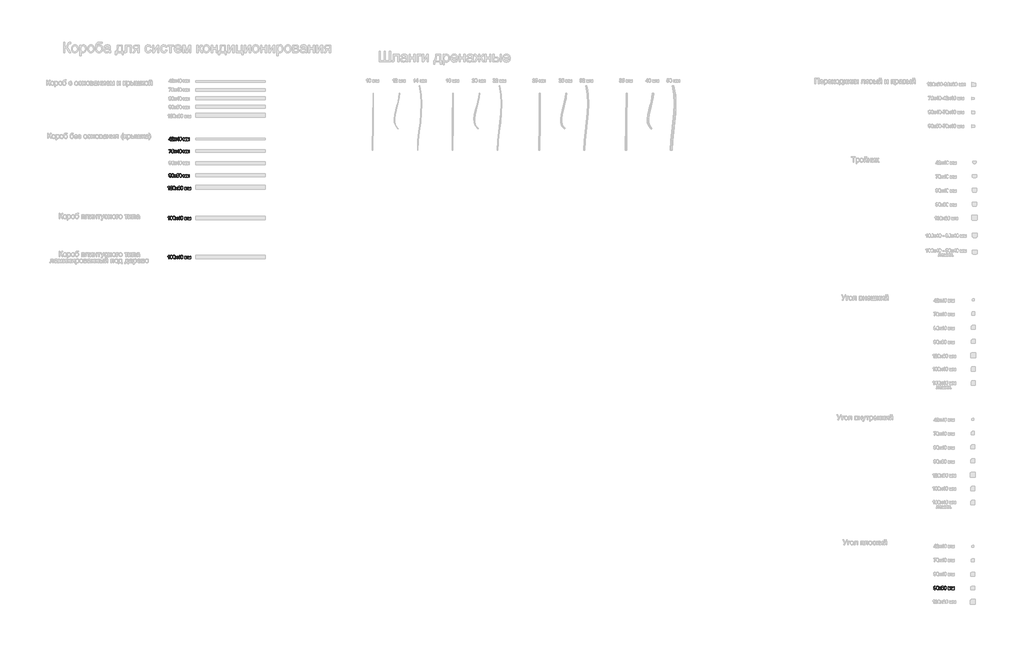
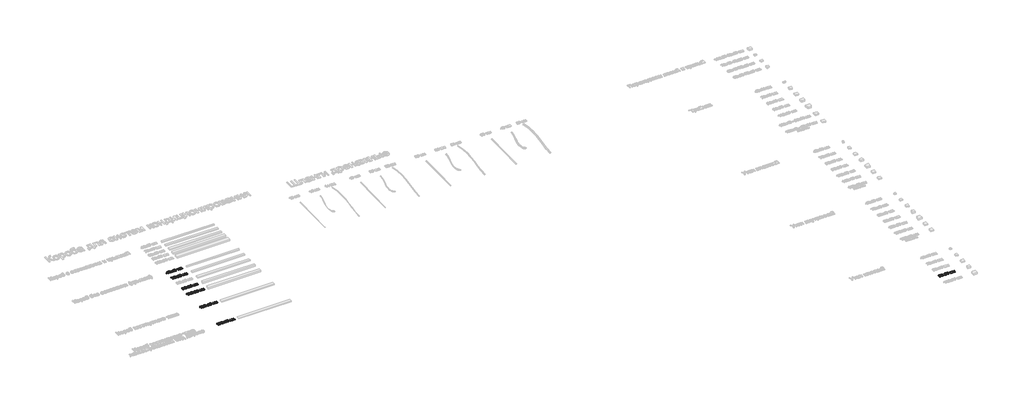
# One storey, part 7 of 21: 7 proxies.
"""IFC4 building model written with IfcOpenShell, lengths in millimetres."""

from ifc_helpers import new_model, si_unit, origin, origin_with_axes, place, context, project, spatial, polyline, outline, extrude, element, save

model = new_model("IFC4")

# Units and contexts
model_context = context("Model", 3, world=origin())
ifc_project = project(units=[si_unit("LENGTHUNIT", "METRE", prefix="MILLI")], contexts=[model_context])

# Site, building, storey
site = spatial("IfcSite", under=ifc_project)
building = spatial("IfcBuilding", under=site)
storey = spatial("IfcBuildingStorey", under=building, Name="Этаж 01", Elevation=0.0)

# Proxies
placement = place(None, origin())
element("IfcBuildingElementProxy", 1, Name="100 мм Arial", ObjectType="100 мм Arial", at=placement, inside=storey, context=model_context, shape_type="SweptSolid", body=[
    extrude(outline(polyline([(764.6146519, -4107.7285434), (764.6146519, -4084.1840957), (719.0953863, -4084.1840957), (719.0953863, -4071.627057), (767.7539116, -4008.8418631), (777.1716906, -4008.8418631), (777.1716906, -4071.627057), (789.7287294, -4071.627057), (789.7287294, -4084.1840957), (777.1716906, -4084.1840957), (777.1716906, -4107.7285434), (764.6146519, -4107.7285434)]), holes=[polyline([(764.6146519, -4071.627057), (764.6146519, -4032.8277692), (734.5464301, -4071.627057), (764.6146519, -4071.627057)])]), origin_with_axes(), (0.0, 0.0, 1.0), 20.0),
    extrude(outline(polyline([(865.070962, -4095.1715047), (865.070962, -4107.7285434), (799.1465085, -4107.7285434), (800.4954091, -4099.0710538), (808.1228292, -4085.7414629), (823.8436531, -4071.1855986), (845.5241653, -4050.2653758), (850.9442934, -4036.0406053), (845.8307337, -4024.5258989), (832.4766173, -4019.8292721), (818.5584151, -4024.4155343), (813.2731771, -4037.0952004), (800.7161383, -4035.5255705), (803.7603618, -4023.3793333), (810.3423839, -4014.5072459), (820.1188479, -4009.0809864), (832.7463974, -4007.2722333), (845.4659174, -4009.2833215), (855.2239873, -4015.3165863), (861.431996, -4024.3296951), (863.5013322, -4035.2803159), (861.2695147, -4047.1874298), (853.8505612, -4059.4992139), (835.8611316, -4076.7038285), (821.4156319, -4088.7826207), (815.7502492, -4095.1715047), (865.070962, -4095.1715047)])), origin_with_axes(), (0.0, 0.0, 1.0), 20.0),
    extrude(outline(polyline([(872.9191113, -4107.7285434), (899.7499714, -4070.6460383), (874.4887411, -4033.9559407), (889.5964284, -4033.9559407), (901.7855851, -4051.6142764), (907.4754933, -4059.952935), (912.4051121, -4053.1348554), (926.286526, -4033.9559407), (941.3942133, -4033.9559407), (914.8576587, -4070.6460383), (940.4131946, -4107.7285434), (925.3055074, -4107.7285434), (909.92804, -4085.4348945), (907.1076113, -4081.3636671), (888.0267985, -4107.7285434), (872.9191113, -4107.7285434)])), origin_with_axes(), (0.0, 0.0, 1.0), 20.0),
    extrude(outline(polyline([(989.0717199, -4107.7285434), (989.0717199, -4084.1840957), (943.5524543, -4084.1840957), (943.5524543, -4071.627057), (992.2109796, -4008.8418631), (1001.6287586, -4008.8418631), (1001.6287586, -4071.627057), (1014.1857974, -4071.627057), (1014.1857974, -4084.1840957), (1001.6287586, -4084.1840957), (1001.6287586, -4107.7285434), (989.0717199, -4107.7285434)]), holes=[polyline([(989.0717199, -4071.627057), (989.0717199, -4032.8277692), (959.0034981, -4071.627057), (989.0717199, -4071.627057)])]), origin_with_axes(), (0.0, 0.0, 1.0), 20.0),
    extrude(outline(polyline([(1025.1732063, -4058.3097288), (1028.864289, -4029.4064667), (1039.8271725, -4012.7414123), (1058.1354331, -4007.2722333), (1072.801662, -4010.5095948), (1082.9306796, -4019.8415348), (1088.8167915, -4034.7039674), (1091.0976599, -4058.3097288), (1087.4433654, -4087.0903635), (1076.5172701, -4103.7922061), (1068.2859105, -4107.9216815), (1058.1354331, -4109.2981733), (1045.087885, -4106.9069403), (1035.1795966, -4099.7332414), (1027.6748039, -4082.7432246), (1025.1732063, -4058.3097288)]), holes=[polyline([(1037.7302451, -4058.2852033), (1039.2017731, -4078.0374007), (1043.616357, -4089.4693337), (1050.189182, -4094.9231843), (1058.1354331, -4096.7411345), (1066.0816842, -4094.917053), (1072.6545092, -4089.4448083), (1077.0690931, -4078.0067439), (1078.5406211, -4058.2852033), (1077.118144, -4038.9775299), (1072.8507129, -4027.4566921), (1066.2901507, -4021.7361271), (1057.9882803, -4019.8292721), (1050.1278683, -4021.5092665), (1043.8125607, -4026.5492498), (1039.250824, -4038.7874575), (1037.7302451, -4058.2852033)])]), origin_with_axes(), (0.0, 0.0, 1.0), 20.0),
    extrude(outline(polyline([(1144.4650746, -4033.9559407), (1166.0720105, -4033.9559407), (1182.7248021, -4093.0132636), (1200.6774435, -4033.9559407), (1221.3769371, -4033.9559407), (1221.3769371, -4107.7285434), (1208.8198983, -4107.7285434), (1208.8198983, -4048.327864), (1190.7691551, -4107.7285434), (1174.2880417, -4107.7285434), (1157.0221134, -4045.4829099), (1157.0221134, -4107.7285434), (1144.4650746, -4107.7285434), (1144.4650746, -4033.9559407)])), origin_with_axes(), (0.0, 0.0, 1.0), 20.0),
    extrude(outline(polyline([(1240.2124952, -4033.9559407), (1261.8194311, -4033.9559407), (1278.4722227, -4093.0132636), (1296.4248641, -4033.9559407), (1317.1243577, -4033.9559407), (1317.1243577, -4107.7285434), (1304.5673189, -4107.7285434), (1304.5673189, -4048.327864), (1286.5165757, -4107.7285434), (1270.0354623, -4107.7285434), (1252.769534, -4045.4829099), (1252.769534, -4107.7285434), (1240.2124952, -4107.7285434), (1240.2124952, -4033.9559407)])), origin_with_axes(), (0.0, 0.0, 1.0), 20.0),
])
element("IfcBuildingElementProxy", 2, Name="100 мм Arial", ObjectType="100 мм Arial", at=placement, inside=storey, context=model_context, shape_type="SweptSolid", body=[
    extrude(outline(polyline([(723.8042759, -4378.808939), (723.8042759, -4366.2519003), (789.7287294, -4366.2519003), (789.7287294, -4376.4054433), (771.0280613, -4403.4202445), (756.7174517, -4437.8417365), (752.0576131, -4465.1385806), (739.5005743, -4465.1385806), (744.4915067, -4436.8116669), (758.1889797, -4404.7936706), (777.1716906, -4378.808939), (723.8042759, -4378.808939)])), origin_with_axes(), (0.0, 0.0, 1.0), 20.0),
    extrude(outline(polyline([(800.7161383, -4415.7197659), (804.407221, -4386.8165038), (815.3701045, -4370.1514494), (833.6783651, -4364.6822704), (848.344594, -4367.919632), (858.4736116, -4377.2515719), (864.3597235, -4392.1140045), (866.6405919, -4415.7197659), (862.9862974, -4444.5004006), (852.0602021, -4461.2022432), (843.8288425, -4465.3317186), (833.6783651, -4466.7082104), (820.630817, -4464.3169774), (810.7225286, -4457.1432785), (803.2177359, -4440.1532617), (800.7161383, -4415.7197659)]), holes=[polyline([(813.2731771, -4415.6952404), (814.7447051, -4435.4474379), (819.159289, -4446.8793709), (825.732114, -4452.3332214), (833.6783651, -4454.1511716), (841.6246162, -4452.3270901), (848.1974412, -4446.8548454), (852.6120251, -4435.416781), (854.0835531, -4415.6952404), (852.6610761, -4396.387567), (848.3936449, -4384.8667292), (841.8330827, -4379.1461642), (833.5312123, -4377.2393092), (825.6708003, -4378.9193036), (819.3554928, -4383.959287), (814.793756, -4396.1974947), (813.2731771, -4415.6952404)])]), origin_with_axes(), (0.0, 0.0, 1.0), 20.0),
    extrude(outline(polyline([(872.9191113, -4465.1385806), (899.7499714, -4428.0560754), (874.4887411, -4391.3659778), (889.5964284, -4391.3659778), (901.7855851, -4409.0243136), (907.4754933, -4417.3629721), (912.4051121, -4410.5448925), (926.286526, -4391.3659778), (941.3942133, -4391.3659778), (914.8576587, -4428.0560754), (940.4131946, -4465.1385806), (925.3055074, -4465.1385806), (909.92804, -4442.8449316), (907.1076113, -4438.7737042), (888.0267985, -4465.1385806), (872.9191113, -4465.1385806)])), origin_with_axes(), (0.0, 0.0, 1.0), 20.0),
    extrude(outline(polyline([(989.0717199, -4465.1385806), (989.0717199, -4441.5941329), (943.5524543, -4441.5941329), (943.5524543, -4429.0370941), (992.2109796, -4366.2519003), (1001.6287586, -4366.2519003), (1001.6287586, -4429.0370941), (1014.1857974, -4429.0370941), (1014.1857974, -4441.5941329), (1001.6287586, -4441.5941329), (1001.6287586, -4465.1385806), (989.0717199, -4465.1385806)]), holes=[polyline([(989.0717199, -4429.0370941), (989.0717199, -4390.2378063), (959.0034981, -4429.0370941), (989.0717199, -4429.0370941)])]), origin_with_axes(), (0.0, 0.0, 1.0), 20.0),
    extrude(outline(polyline([(1025.1732063, -4415.7197659), (1028.864289, -4386.8165038), (1039.8271725, -4370.1514494), (1058.1354331, -4364.6822704), (1072.801662, -4367.919632), (1082.9306796, -4377.2515719), (1088.8167915, -4392.1140045), (1091.0976599, -4415.7197659), (1087.4433654, -4444.5004006), (1076.5172701, -4461.2022432), (1068.2859105, -4465.3317186), (1058.1354331, -4466.7082104), (1045.087885, -4464.3169774), (1035.1795966, -4457.1432785), (1027.6748039, -4440.1532617), (1025.1732063, -4415.7197659)]), holes=[polyline([(1037.7302451, -4415.6952404), (1039.2017731, -4435.4474379), (1043.616357, -4446.8793709), (1050.189182, -4452.3332214), (1058.1354331, -4454.1511716), (1066.0816842, -4452.3270901), (1072.6545092, -4446.8548454), (1077.0690931, -4435.416781), (1078.5406211, -4415.6952404), (1077.118144, -4396.387567), (1072.8507129, -4384.8667292), (1066.2901507, -4379.1461642), (1057.9882803, -4377.2393092), (1050.1278683, -4378.9193036), (1043.8125607, -4383.959287), (1039.250824, -4396.1974947), (1037.7302451, -4415.6952404)])]), origin_with_axes(), (0.0, 0.0, 1.0), 20.0),
    extrude(outline(polyline([(1144.4650746, -4391.3659778), (1166.0720105, -4391.3659778), (1182.7248021, -4450.4233007), (1200.6774435, -4391.3659778), (1221.3769371, -4391.3659778), (1221.3769371, -4465.1385806), (1208.8198983, -4465.1385806), (1208.8198983, -4405.7379011), (1190.7691551, -4465.1385806), (1174.2880417, -4465.1385806), (1157.0221134, -4402.892947), (1157.0221134, -4465.1385806), (1144.4650746, -4465.1385806), (1144.4650746, -4391.3659778)])), origin_with_axes(), (0.0, 0.0, 1.0), 20.0),
    extrude(outline(polyline([(1240.2124952, -4391.3659778), (1261.8194311, -4391.3659778), (1278.4722227, -4450.4233007), (1296.4248641, -4391.3659778), (1317.1243577, -4391.3659778), (1317.1243577, -4465.1385806), (1304.5673189, -4465.1385806), (1304.5673189, -4405.7379011), (1286.5165757, -4465.1385806), (1270.0354623, -4465.1385806), (1252.769534, -4402.892947), (1252.769534, -4465.1385806), (1240.2124952, -4465.1385806), (1240.2124952, -4391.3659778)])), origin_with_axes(), (0.0, 0.0, 1.0), 20.0),
])
element("IfcBuildingElementProxy", 3, Name="100 мм Arial", ObjectType="100 мм Arial", at=placement, inside=storey, context=model_context, shape_type="SweptSolid", body=[
    extrude(outline(polyline([(725.3739057, -5136.8445773), (737.9309445, -5135.2749474), (743.5718018, -5147.2556377), (754.2649051, -5150.9712459), (764.4307109, -5148.5800129), (771.3223669, -5142.1911289), (775.4303825, -5131.2772964), (777.245267, -5116.7091694), (777.1716906, -5114.2566228), (767.1285122, -5123.7725037), (753.3574628, -5127.4267982), (741.9071357, -5125.1949807), (732.3759264, -5118.4995284), (725.9471885, -5108.155913), (723.8042759, -5094.9796062), (726.0514217, -5081.3679724), (732.7928593, -5070.6993945), (742.9188112, -5063.8016071), (755.3195001, -5061.5023446), (773.2108278, -5066.7507944), (785.5226119, -5081.7113289), (789.7287294, -5109.8175133), (785.5348747, -5140.3149307), (780.3201474, -5150.3059926), (773.063675, -5157.5931218), (764.0781573, -5162.0444939), (753.6762939, -5163.5282846), (742.940271, -5161.7777795), (734.3747519, -5156.526264), (728.3844067, -5148.104832), (725.3739057, -5136.8445773)]), holes=[polyline([(777.1716906, -5094.6853006), (775.8166586, -5086.1749638), (771.7515626, -5079.6266643), (765.4423864, -5075.4512036), (757.3551138, -5074.0593834), (748.9674043, -5075.5585025), (742.2474266, -5080.0558599), (737.8328426, -5086.9383189), (736.3613146, -5095.5927429), (737.7531349, -5103.3519873), (741.9285955, -5109.510945), (748.4830264, -5113.5300558), (757.0117573, -5114.8697594), (771.4940452, -5109.510945), (775.7522793, -5103.1251267), (777.1716906, -5094.6853006)])]), origin_with_axes(), (0.0, 0.0, 1.0), 20.0),
    extrude(outline(polyline([(800.7161383, -5112.5398401), (804.407221, -5083.636578), (815.3701045, -5066.9715236), (833.6783651, -5061.5023446), (848.344594, -5064.7397062), (858.4736116, -5074.0716461), (864.3597235, -5088.9340787), (866.6405919, -5112.5398401), (862.9862974, -5141.3204749), (852.0602021, -5158.0223174), (843.8288425, -5162.1517928), (833.6783651, -5163.5282846), (820.630817, -5161.1370517), (810.7225286, -5153.9633528), (803.2177359, -5136.973336), (800.7161383, -5112.5398401)]), holes=[polyline([(813.2731771, -5112.5153146), (814.7447051, -5132.2675121), (819.159289, -5143.6994451), (825.732114, -5149.1532957), (833.6783651, -5150.9712459), (841.6246162, -5149.1471643), (848.1974412, -5143.6749196), (852.6120251, -5132.2368553), (854.0835531, -5112.5153146), (852.6610761, -5093.2076413), (848.3936449, -5081.6868034), (841.8330827, -5075.9662384), (833.5312123, -5074.0593834), (825.6708003, -5075.7393779), (819.3554928, -5080.7793612), (814.793756, -5093.0175689), (813.2731771, -5112.5153146)])]), origin_with_axes(), (0.0, 0.0, 1.0), 20.0),
    extrude(outline(polyline([(872.9191113, -5161.9586548), (899.7499714, -5124.8761497), (874.4887411, -5088.186052), (889.5964284, -5088.186052), (901.7855851, -5105.8443878), (907.4754933, -5114.1830464), (912.4051121, -5107.3649667), (926.286526, -5088.186052), (941.3942133, -5088.186052), (914.8576587, -5124.8761497), (940.4131946, -5161.9586548), (925.3055074, -5161.9586548), (909.92804, -5139.6650059), (907.1076113, -5135.5937785), (888.0267985, -5161.9586548), (872.9191113, -5161.9586548)])), origin_with_axes(), (0.0, 0.0, 1.0), 20.0),
    extrude(outline(polyline([(1012.6161676, -5088.186052), (1000.0591288, -5089.7556819), (995.3011883, -5079.2833077), (982.7196241, -5074.0593834), (971.3888586, -5077.1005412), (962.8172081, -5088.5171458), (959.2487528, -5110.8966339), (970.3220008, -5100.8779809), (984.0439993, -5097.6038311), (995.6445448, -5099.8417799), (1005.381155, -5106.5556263), (1011.9846368, -5116.8134026), (1014.1857974, -5129.6831411), (1010.0409936, -5147.0103831), (998.6366517, -5159.2731162), (982.1800638, -5163.5282846), (967.9338336, -5160.707856), (956.5877397, -5152.2465701), (949.1657204, -5137.3105611), (946.691714, -5115.0659631), (949.4385663, -5090.0561188), (957.6791229, -5072.9557374), (968.9301806, -5064.3656928), (983.504439, -5061.5023446), (994.5225048, -5063.2743096), (1003.3455413, -5068.5902044), (1009.5259588, -5077.0330962), (1012.6161676, -5088.186052)]), holes=[polyline([(959.2487528, -5129.4869374), (962.1550206, -5140.3639817), (969.8805424, -5148.2611818), (981.1990452, -5150.9712459), (989.4855871, -5149.5671629), (996.0001641, -5145.3549141), (1000.22161, -5138.7330382), (1001.6287586, -5130.100074), (1000.2400041, -5121.8135321), (996.0737405, -5115.4951588), (989.4487989, -5111.4944421), (980.6840104, -5110.1608699), (965.490484, -5115.4951588), (960.8091856, -5121.6602479), (959.2487528, -5129.4869374)])]), origin_with_axes(), (0.0, 0.0, 1.0), 20.0),
    extrude(outline(polyline([(1025.1732063, -5112.5398401), (1028.864289, -5083.636578), (1039.8271725, -5066.9715236), (1058.1354331, -5061.5023446), (1072.801662, -5064.7397062), (1082.9306796, -5074.0716461), (1088.8167915, -5088.9340787), (1091.0976599, -5112.5398401), (1087.4433654, -5141.3204749), (1076.5172701, -5158.0223174), (1068.2859105, -5162.1517928), (1058.1354331, -5163.5282846), (1045.087885, -5161.1370517), (1035.1795966, -5153.9633528), (1027.6748039, -5136.973336), (1025.1732063, -5112.5398401)]), holes=[polyline([(1037.7302451, -5112.5153146), (1039.2017731, -5132.2675121), (1043.616357, -5143.6994451), (1050.189182, -5149.1532957), (1058.1354331, -5150.9712459), (1066.0816842, -5149.1471643), (1072.6545092, -5143.6749196), (1077.0690931, -5132.2368553), (1078.5406211, -5112.5153146), (1077.118144, -5093.2076413), (1072.8507129, -5081.6868034), (1066.2901507, -5075.9662384), (1057.9882803, -5074.0593834), (1050.1278683, -5075.7393779), (1043.8125607, -5080.7793612), (1039.250824, -5093.0175689), (1037.7302451, -5112.5153146)])]), origin_with_axes(), (0.0, 0.0, 1.0), 20.0),
    extrude(outline(polyline([(1144.4650746, -5088.186052), (1166.0720105, -5088.186052), (1182.7248021, -5147.243375), (1200.6774435, -5088.186052), (1221.3769371, -5088.186052), (1221.3769371, -5161.9586548), (1208.8198983, -5161.9586548), (1208.8198983, -5102.5579753), (1190.7691551, -5161.9586548), (1174.2880417, -5161.9586548), (1157.0221134, -5099.7130212), (1157.0221134, -5161.9586548), (1144.4650746, -5161.9586548), (1144.4650746, -5088.186052)])), origin_with_axes(), (0.0, 0.0, 1.0), 20.0),
    extrude(outline(polyline([(1240.2124952, -5088.186052), (1261.8194311, -5088.186052), (1278.4722227, -5147.243375), (1296.4248641, -5088.186052), (1317.1243577, -5088.186052), (1317.1243577, -5161.9586548), (1304.5673189, -5161.9586548), (1304.5673189, -5102.5579753), (1286.5165757, -5161.9586548), (1270.0354623, -5161.9586548), (1252.769534, -5099.7130212), (1252.769534, -5161.9586548), (1240.2124952, -5161.9586548), (1240.2124952, -5088.186052)])), origin_with_axes(), (0.0, 0.0, 1.0), 20.0),
])
element("IfcBuildingElementProxy", 4, Name="100 мм Arial", ObjectType="100 мм Arial", at=placement, inside=storey, context=model_context, shape_type="SweptSolid", body=[
    extrude(outline(polyline([(732.43724, -5520.3686919), (719.8802013, -5520.3686919), (719.8802013, -5442.0834033), (707.9853501, -5450.556952), (694.7661237, -5456.896785), (694.7661237, -5445.0264593), (713.1724862, -5433.2787609), (724.3438361, -5419.9123818), (732.43724, -5419.9123818), (732.43724, -5520.3686919)])), origin_with_axes(), (0.0, 0.0, 1.0), 20.0),
    extrude(outline(polyline([(826.6150308, -5507.8116531), (826.6150308, -5520.3686919), (760.6905773, -5520.3686919), (762.0394779, -5511.7112023), (769.6668979, -5498.3816113), (785.3877219, -5483.8257471), (807.0682341, -5462.9055243), (812.4883622, -5448.6807538), (807.3748024, -5437.1660473), (794.020686, -5432.4694205), (780.1024839, -5437.0556827), (774.8172459, -5449.7353488), (762.2602071, -5448.165719), (765.3044306, -5436.0194818), (771.8864526, -5427.1473943), (781.6629167, -5421.7211349), (794.2904662, -5419.9123818), (807.0099861, -5421.92347), (816.7680561, -5427.9567347), (822.9760647, -5436.9698436), (825.0454009, -5447.9204643), (822.8135835, -5459.8275782), (815.3946299, -5472.1393623), (797.4052004, -5489.343977), (782.9597007, -5501.4227692), (777.294318, -5507.8116531), (826.6150308, -5507.8116531)])), origin_with_axes(), (0.0, 0.0, 1.0), 20.0),
    extrude(outline(polyline([(839.1720696, -5470.9498772), (842.8631522, -5442.0466151), (853.8260357, -5425.3815608), (872.1342963, -5419.9123818), (886.8005252, -5423.1497433), (896.9295428, -5432.4816833), (902.8156547, -5447.3441159), (905.0965231, -5470.9498772), (901.4422286, -5499.730512), (890.5161334, -5516.4323546), (882.2847737, -5520.56183), (872.1342963, -5521.9383218), (859.0867482, -5519.5470888), (849.1784598, -5512.3733899), (841.6736671, -5495.3833731), (839.1720696, -5470.9498772)]), holes=[polyline([(851.7291083, -5470.9253518), (853.2006363, -5490.6775492), (857.6152203, -5502.1094822), (864.1880452, -5507.5633328), (872.1342963, -5509.381283), (880.0805474, -5507.5572014), (886.6533724, -5502.0849568), (891.0679563, -5490.6468924), (892.5394843, -5470.9253518), (891.1170073, -5451.6176784), (886.8495761, -5440.0968406), (880.2890139, -5434.3762755), (871.9871435, -5432.4694205), (864.1267316, -5434.149415), (857.811424, -5439.1893983), (853.2496872, -5451.427606), (851.7291083, -5470.9253518)])]), origin_with_axes(), (0.0, 0.0, 1.0), 20.0),
    extrude(outline(polyline([(911.3750425, -5520.3686919), (938.2059027, -5483.2861868), (912.9446723, -5446.5960891), (928.0523596, -5446.5960891), (940.2415164, -5464.2544249), (945.9314246, -5472.5930835), (950.8610433, -5465.7750038), (964.7424573, -5446.5960891), (979.8501445, -5446.5960891), (953.3135899, -5483.2861868), (978.8691259, -5520.3686919), (963.7614386, -5520.3686919), (948.3839712, -5498.075043), (945.5635426, -5494.0038156), (926.4827298, -5520.3686919), (911.3750425, -5520.3686919)])), origin_with_axes(), (0.0, 0.0, 1.0), 20.0),
    extrude(outline(polyline([(1051.0720988, -5446.5960891), (1038.51506, -5448.165719), (1033.7571195, -5437.6933449), (1021.1755553, -5432.4694205), (1009.8447899, -5435.5105784), (1001.2731394, -5446.9271829), (997.704684, -5469.306671), (1008.7779321, -5459.288018), (1022.4999305, -5456.0138682), (1034.1004761, -5458.251817), (1043.8370862, -5464.9656634), (1050.440568, -5475.2234397), (1052.6417286, -5488.0931782), (1048.4969248, -5505.4204202), (1037.092583, -5517.6831533), (1020.6359951, -5521.9383218), (1006.3897648, -5519.1178931), (995.0436709, -5510.6566072), (987.6216517, -5495.7205982), (985.1476452, -5473.4760003), (987.8944975, -5448.466156), (996.1350542, -5431.3657745), (1007.3861119, -5422.77573), (1021.9603702, -5419.9123818), (1032.978436, -5421.6843467), (1041.8014725, -5427.0002415), (1047.98189, -5435.4431333), (1051.0720988, -5446.5960891)]), holes=[polyline([(997.704684, -5487.8969745), (1000.6109518, -5498.7740188), (1008.3364737, -5506.671219), (1019.6549764, -5509.381283), (1027.9415183, -5507.9772), (1034.4560953, -5503.7649512), (1038.6775412, -5497.1430753), (1040.0846899, -5488.5101111), (1038.6959353, -5480.2235692), (1034.5296717, -5473.9051959), (1027.9047301, -5469.9044792), (1019.1399416, -5468.570907), (1003.9464152, -5473.9051959), (999.2651168, -5480.070285), (997.704684, -5487.8969745)])]), origin_with_axes(), (0.0, 0.0, 1.0), 20.0),
    extrude(outline(polyline([(1063.6291376, -5470.9498772), (1067.3202202, -5442.0466151), (1078.2831037, -5425.3815608), (1096.5913643, -5419.9123818), (1111.2575932, -5423.1497433), (1121.3866108, -5432.4816833), (1127.2727227, -5447.3441159), (1129.5535911, -5470.9498772), (1125.8992966, -5499.730512), (1114.9732013, -5516.4323546), (1106.7418417, -5520.56183), (1096.5913643, -5521.9383218), (1083.5438162, -5519.5470888), (1073.6355278, -5512.3733899), (1066.1307351, -5495.3833731), (1063.6291376, -5470.9498772)]), holes=[polyline([(1076.1861763, -5470.9253518), (1077.6577043, -5490.6775492), (1082.0722882, -5502.1094822), (1088.6451132, -5507.5633328), (1096.5913643, -5509.381283), (1104.5376154, -5507.5572014), (1111.1104404, -5502.0849568), (1115.5250243, -5490.6468924), (1116.9965523, -5470.9253518), (1115.5740753, -5451.6176784), (1111.3066441, -5440.0968406), (1104.7460819, -5434.3762755), (1096.4442115, -5432.4694205), (1088.5837996, -5434.149415), (1082.268492, -5439.1893983), (1077.7067552, -5451.427606), (1076.1861763, -5470.9253518)])]), origin_with_axes(), (0.0, 0.0, 1.0), 20.0),
    extrude(outline(polyline([(1182.9210059, -5446.5960891), (1204.5279417, -5446.5960891), (1221.1807334, -5505.6534121), (1239.1333747, -5446.5960891), (1259.8328683, -5446.5960891), (1259.8328683, -5520.3686919), (1247.2758295, -5520.3686919), (1247.2758295, -5460.9680124), (1229.2250863, -5520.3686919), (1212.7439729, -5520.3686919), (1195.4780446, -5458.1230583), (1195.4780446, -5520.3686919), (1182.9210059, -5520.3686919), (1182.9210059, -5446.5960891)])), origin_with_axes(), (0.0, 0.0, 1.0), 20.0),
    extrude(outline(polyline([(1278.6684265, -5446.5960891), (1300.2753623, -5446.5960891), (1316.928154, -5505.6534121), (1334.8807953, -5446.5960891), (1355.5802889, -5446.5960891), (1355.5802889, -5520.3686919), (1343.0232502, -5520.3686919), (1343.0232502, -5460.9680124), (1324.9725069, -5520.3686919), (1308.4913935, -5520.3686919), (1291.2254652, -5458.1230583), (1291.2254652, -5520.3686919), (1278.6684265, -5520.3686919), (1278.6684265, -5446.5960891)])), origin_with_axes(), (0.0, 0.0, 1.0), 20.0),
])
element("IfcBuildingElementProxy", 5, Name="100 мм Arial", ObjectType="100 мм Arial", at=placement, inside=storey, context=model_context, shape_type="SweptSolid", body=[
    extrude(outline(polyline([(732.43724, -6385.2475979), (719.8802013, -6385.2475979), (719.8802013, -6306.9623093), (707.9853501, -6315.4358579), (694.7661237, -6321.775691), (694.7661237, -6309.9053652), (713.1724862, -6298.1576669), (724.3438361, -6284.7912877), (732.43724, -6284.7912877), (732.43724, -6385.2475979)])), origin_with_axes(), (0.0, 0.0, 1.0), 20.0),
    extrude(outline(polyline([(762.2602071, -6335.8287832), (765.9512898, -6306.9255211), (776.9141732, -6290.2604667), (795.2224339, -6284.7912877), (809.8886627, -6288.0286493), (820.0176803, -6297.3605892), (825.9037923, -6312.2230218), (828.1846606, -6335.8287832), (824.5303662, -6364.6094179), (813.6042709, -6381.3112605), (805.3729113, -6385.4407359), (795.2224339, -6386.8172277), (782.1748858, -6384.4259947), (772.2665974, -6377.2522958), (764.7618047, -6360.262279), (762.2602071, -6335.8287832)]), holes=[polyline([(774.8172459, -6335.8042577), (776.2887739, -6355.5564552), (780.7033578, -6366.9883882), (787.2761828, -6372.4422387), (795.2224339, -6374.2601889), (803.168685, -6372.4361074), (809.7415099, -6366.9638627), (814.1560939, -6355.5257983), (815.6276219, -6335.8042577), (814.2051448, -6316.4965843), (809.9377137, -6304.9757465), (803.3771514, -6299.2551815), (795.0752811, -6297.3483265), (787.2148691, -6299.0283209), (780.8995615, -6304.0683043), (776.3378248, -6316.306512), (774.8172459, -6335.8042577)])]), origin_with_axes(), (0.0, 0.0, 1.0), 20.0),
    extrude(outline(polyline([(839.1720696, -6335.8287832), (842.8631522, -6306.9255211), (853.8260357, -6290.2604667), (872.1342963, -6284.7912877), (886.8005252, -6288.0286493), (896.9295428, -6297.3605892), (902.8156547, -6312.2230218), (905.0965231, -6335.8287832), (901.4422286, -6364.6094179), (890.5161334, -6381.3112605), (882.2847737, -6385.4407359), (872.1342963, -6386.8172277), (859.0867482, -6384.4259947), (849.1784598, -6377.2522958), (841.6736671, -6360.262279), (839.1720696, -6335.8287832)]), holes=[polyline([(851.7291083, -6335.8042577), (853.2006363, -6355.5564552), (857.6152203, -6366.9883882), (864.1880452, -6372.4422387), (872.1342963, -6374.2601889), (880.0805474, -6372.4361074), (886.6533724, -6366.9638627), (891.0679563, -6355.5257983), (892.5394843, -6335.8042577), (891.1170073, -6316.4965843), (886.8495761, -6304.9757465), (880.2890139, -6299.2551815), (871.9871435, -6297.3483265), (864.1267316, -6299.0283209), (857.811424, -6304.0683043), (853.2496872, -6316.306512), (851.7291083, -6335.8042577)])]), origin_with_axes(), (0.0, 0.0, 1.0), 20.0),
    extrude(outline(polyline([(911.3750425, -6385.2475979), (938.2059027, -6348.1650927), (912.9446723, -6311.4749951), (928.0523596, -6311.4749951), (940.2415164, -6329.1333309), (945.9314246, -6337.4719894), (950.8610433, -6330.6539098), (964.7424573, -6311.4749951), (979.8501445, -6311.4749951), (953.3135899, -6348.1650927), (978.8691259, -6385.2475979), (963.7614386, -6385.2475979), (948.3839712, -6362.9539489), (945.5635426, -6358.8827215), (926.4827298, -6385.2475979), (911.3750425, -6385.2475979)])), origin_with_axes(), (0.0, 0.0, 1.0), 20.0),
    extrude(outline(polyline([(1027.5276511, -6385.2475979), (1027.5276511, -6361.7031502), (982.0083856, -6361.7031502), (982.0083856, -6349.1461114), (1030.6669108, -6286.3609176), (1040.0846899, -6286.3609176), (1040.0846899, -6349.1461114), (1052.6417286, -6349.1461114), (1052.6417286, -6361.7031502), (1040.0846899, -6361.7031502), (1040.0846899, -6385.2475979), (1027.5276511, -6385.2475979)]), holes=[polyline([(1027.5276511, -6349.1461114), (1027.5276511, -6310.3468236), (997.4594294, -6349.1461114), (1027.5276511, -6349.1461114)])]), origin_with_axes(), (0.0, 0.0, 1.0), 20.0),
    extrude(outline(polyline([(1063.6291376, -6335.8287832), (1067.3202202, -6306.9255211), (1078.2831037, -6290.2604667), (1096.5913643, -6284.7912877), (1111.2575932, -6288.0286493), (1121.3866108, -6297.3605892), (1127.2727227, -6312.2230218), (1129.5535911, -6335.8287832), (1125.8992966, -6364.6094179), (1114.9732013, -6381.3112605), (1106.7418417, -6385.4407359), (1096.5913643, -6386.8172277), (1083.5438162, -6384.4259947), (1073.6355278, -6377.2522958), (1066.1307351, -6360.262279), (1063.6291376, -6335.8287832)]), holes=[polyline([(1076.1861763, -6335.8042577), (1077.6577043, -6355.5564552), (1082.0722882, -6366.9883882), (1088.6451132, -6372.4422387), (1096.5913643, -6374.2601889), (1104.5376154, -6372.4361074), (1111.1104404, -6366.9638627), (1115.5250243, -6355.5257983), (1116.9965523, -6335.8042577), (1115.5740753, -6316.4965843), (1111.3066441, -6304.9757465), (1104.7460819, -6299.2551815), (1096.4442115, -6297.3483265), (1088.5837996, -6299.0283209), (1082.268492, -6304.0683043), (1077.7067552, -6316.306512), (1076.1861763, -6335.8042577)])]), origin_with_axes(), (0.0, 0.0, 1.0), 20.0),
    extrude(outline(polyline([(1182.9210059, -6311.4749951), (1204.5279417, -6311.4749951), (1221.1807334, -6370.532318), (1239.1333747, -6311.4749951), (1259.8328683, -6311.4749951), (1259.8328683, -6385.2475979), (1247.2758295, -6385.2475979), (1247.2758295, -6325.8469184), (1229.2250863, -6385.2475979), (1212.7439729, -6385.2475979), (1195.4780446, -6323.0019643), (1195.4780446, -6385.2475979), (1182.9210059, -6385.2475979), (1182.9210059, -6311.4749951)])), origin_with_axes(), (0.0, 0.0, 1.0), 20.0),
    extrude(outline(polyline([(1278.6684265, -6311.4749951), (1300.2753623, -6311.4749951), (1316.928154, -6370.532318), (1334.8807953, -6311.4749951), (1355.5802889, -6311.4749951), (1355.5802889, -6385.2475979), (1343.0232502, -6385.2475979), (1343.0232502, -6325.8469184), (1324.9725069, -6385.2475979), (1308.4913935, -6385.2475979), (1291.2254652, -6323.0019643), (1291.2254652, -6385.2475979), (1278.6684265, -6385.2475979), (1278.6684265, -6311.4749951)])), origin_with_axes(), (0.0, 0.0, 1.0), 20.0),
])
element("IfcBuildingElementProxy", 6, Name="100 мм Arial", ObjectType="100 мм Arial", at=placement, inside=storey, context=model_context, shape_type="SweptSolid", body=[
    extrude(outline(polyline([(732.43724, -7510.9391504), (719.8802013, -7510.9391504), (719.8802013, -7432.6538618), (707.9853501, -7441.1274105), (694.7661237, -7447.4672435), (694.7661237, -7435.5969178), (713.1724862, -7423.8492194), (724.3438361, -7410.4828403), (732.43724, -7410.4828403), (732.43724, -7510.9391504)])), origin_with_axes(), (0.0, 0.0, 1.0), 20.0),
    extrude(outline(polyline([(762.2602071, -7461.5203357), (765.9512898, -7432.6170736), (776.9141732, -7415.9520193), (795.2224339, -7410.4828403), (809.8886627, -7413.7202018), (820.0176803, -7423.0521418), (825.9037923, -7437.9145744), (828.1846606, -7461.5203357), (824.5303662, -7490.3009705), (813.6042709, -7507.0028131), (805.3729113, -7511.1322885), (795.2224339, -7512.5087803), (782.1748858, -7510.1175473), (772.2665974, -7502.9438484), (764.7618047, -7485.9538316), (762.2602071, -7461.5203357)]), holes=[polyline([(774.8172459, -7461.4958103), (776.2887739, -7481.2480077), (780.7033578, -7492.6799407), (787.2761828, -7498.1337913), (795.2224339, -7499.9517415), (803.168685, -7498.1276599), (809.7415099, -7492.6554153), (814.1560939, -7481.2173509), (815.6276219, -7461.4958103), (814.2051448, -7442.1881369), (809.9377137, -7430.6672991), (803.3771514, -7424.946734), (795.0752811, -7423.039879), (787.2148691, -7424.7198735), (780.8995615, -7429.7598568), (776.3378248, -7441.9980645), (774.8172459, -7461.4958103)])]), origin_with_axes(), (0.0, 0.0, 1.0), 20.0),
    extrude(outline(polyline([(839.1720696, -7461.5203357), (842.8631522, -7432.6170736), (853.8260357, -7415.9520193), (872.1342963, -7410.4828403), (886.8005252, -7413.7202018), (896.9295428, -7423.0521418), (902.8156547, -7437.9145744), (905.0965231, -7461.5203357), (901.4422286, -7490.3009705), (890.5161334, -7507.0028131), (882.2847737, -7511.1322885), (872.1342963, -7512.5087803), (859.0867482, -7510.1175473), (849.1784598, -7502.9438484), (841.6736671, -7485.9538316), (839.1720696, -7461.5203357)]), holes=[polyline([(851.7291083, -7461.4958103), (853.2006363, -7481.2480077), (857.6152203, -7492.6799407), (864.1880452, -7498.1337913), (872.1342963, -7499.9517415), (880.0805474, -7498.1276599), (886.6533724, -7492.6554153), (891.0679563, -7481.2173509), (892.5394843, -7461.4958103), (891.1170073, -7442.1881369), (886.8495761, -7430.6672991), (880.2890139, -7424.946734), (871.9871435, -7423.039879), (864.1267316, -7424.7198735), (857.811424, -7429.7598568), (853.2496872, -7441.9980645), (851.7291083, -7461.4958103)])]), origin_with_axes(), (0.0, 0.0, 1.0), 20.0),
    extrude(outline(polyline([(911.3750425, -7510.9391504), (938.2059027, -7473.8566453), (912.9446723, -7437.1665477), (928.0523596, -7437.1665477), (940.2415164, -7454.8248834), (945.9314246, -7463.163542), (950.8610433, -7456.3454623), (964.7424573, -7437.1665477), (979.8501445, -7437.1665477), (953.3135899, -7473.8566453), (978.8691259, -7510.9391504), (963.7614386, -7510.9391504), (948.3839712, -7488.6455015), (945.5635426, -7484.5742741), (926.4827298, -7510.9391504), (911.3750425, -7510.9391504)])), origin_with_axes(), (0.0, 0.0, 1.0), 20.0),
    extrude(outline(polyline([(1027.5276511, -7510.9391504), (1027.5276511, -7487.3947027), (982.0083856, -7487.3947027), (982.0083856, -7474.837664), (1030.6669108, -7412.0524701), (1040.0846899, -7412.0524701), (1040.0846899, -7474.837664), (1052.6417286, -7474.837664), (1052.6417286, -7487.3947027), (1040.0846899, -7487.3947027), (1040.0846899, -7510.9391504), (1027.5276511, -7510.9391504)]), holes=[polyline([(1027.5276511, -7474.837664), (1027.5276511, -7436.0383762), (997.4594294, -7474.837664), (1027.5276511, -7474.837664)])]), origin_with_axes(), (0.0, 0.0, 1.0), 20.0),
    extrude(outline(polyline([(1063.6291376, -7461.5203357), (1067.3202202, -7432.6170736), (1078.2831037, -7415.9520193), (1096.5913643, -7410.4828403), (1111.2575932, -7413.7202018), (1121.3866108, -7423.0521418), (1127.2727227, -7437.9145744), (1129.5535911, -7461.5203357), (1125.8992966, -7490.3009705), (1114.9732013, -7507.0028131), (1106.7418417, -7511.1322885), (1096.5913643, -7512.5087803), (1083.5438162, -7510.1175473), (1073.6355278, -7502.9438484), (1066.1307351, -7485.9538316), (1063.6291376, -7461.5203357)]), holes=[polyline([(1076.1861763, -7461.4958103), (1077.6577043, -7481.2480077), (1082.0722882, -7492.6799407), (1088.6451132, -7498.1337913), (1096.5913643, -7499.9517415), (1104.5376154, -7498.1276599), (1111.1104404, -7492.6554153), (1115.5250243, -7481.2173509), (1116.9965523, -7461.4958103), (1115.5740753, -7442.1881369), (1111.3066441, -7430.6672991), (1104.7460819, -7424.946734), (1096.4442115, -7423.039879), (1088.5837996, -7424.7198735), (1082.268492, -7429.7598568), (1077.7067552, -7441.9980645), (1076.1861763, -7461.4958103)])]), origin_with_axes(), (0.0, 0.0, 1.0), 20.0),
    extrude(outline(polyline([(1182.9210059, -7437.1665477), (1204.5279417, -7437.1665477), (1221.1807334, -7496.2238706), (1239.1333747, -7437.1665477), (1259.8328683, -7437.1665477), (1259.8328683, -7510.9391504), (1247.2758295, -7510.9391504), (1247.2758295, -7451.5384709), (1229.2250863, -7510.9391504), (1212.7439729, -7510.9391504), (1195.4780446, -7448.6935168), (1195.4780446, -7510.9391504), (1182.9210059, -7510.9391504), (1182.9210059, -7437.1665477)])), origin_with_axes(), (0.0, 0.0, 1.0), 20.0),
    extrude(outline(polyline([(1278.6684265, -7437.1665477), (1300.2753623, -7437.1665477), (1316.928154, -7496.2238706), (1334.8807953, -7437.1665477), (1355.5802889, -7437.1665477), (1355.5802889, -7510.9391504), (1343.0232502, -7510.9391504), (1343.0232502, -7451.5384709), (1324.9725069, -7510.9391504), (1308.4913935, -7510.9391504), (1291.2254652, -7448.6935168), (1291.2254652, -7510.9391504), (1278.6684265, -7510.9391504), (1278.6684265, -7437.1665477)])), origin_with_axes(), (0.0, 0.0, 1.0), 20.0),
])
element("IfcBuildingElementProxy", 7, Name="100 мм Arial", ObjectType="100 мм Arial", at=placement, inside=storey, context=model_context, shape_type="SweptSolid", body=[
    extrude(outline(polyline([(22751.4294456, -17013.3480393), (22763.9864844, -17011.7784095), (22769.6273416, -17023.7590998), (22780.320445, -17027.4747079), (22790.4862508, -17025.083475), (22797.3779068, -17018.694591), (22801.4859224, -17007.7807585), (22803.3008069, -16993.2126315), (22803.2272305, -16990.7600848), (22793.1840521, -17000.2759658), (22779.4130027, -17003.9302603), (22767.9626756, -17001.6984428), (22758.4314663, -16995.0029905), (22752.0027284, -16984.6593751), (22749.8598158, -16971.4830683), (22752.1069616, -16957.8714345), (22758.8483992, -16947.2028566), (22768.9743511, -16940.3050692), (22781.37504, -16938.0058067), (22799.2663677, -16943.2542565), (22811.5781518, -16958.214791), (22815.7842693, -16986.3209754), (22811.5904146, -17016.8183928), (22806.3756873, -17026.8094547), (22799.1192149, -17034.0965839), (22790.1336972, -17038.547956), (22779.7318338, -17040.0317467), (22768.9958109, -17038.2812416), (22760.4302918, -17033.0297261), (22754.4399466, -17024.6082941), (22751.4294456, -17013.3480393)]), holes=[polyline([(22803.2272305, -16971.1887627), (22801.8721985, -16962.6784259), (22797.8071025, -16956.1301263), (22791.4979263, -16951.9546657), (22783.4106537, -16950.5628455), (22775.0229442, -16952.0619646), (22768.3029665, -16956.559322), (22763.8883825, -16963.441781), (22762.4168545, -16972.0962049), (22763.8086748, -16979.8554494), (22767.9841354, -16986.0144071), (22774.5385663, -16990.0335179), (22783.0672972, -16991.3732215), (22797.5495851, -16986.0144071), (22801.8078192, -16979.6285888), (22803.2272305, -16971.1887627)])]), origin_with_axes(), (0.0, 0.0, 1.0), 20.0),
    extrude(outline(polyline([(22826.7716782, -16989.0433022), (22830.4627609, -16960.1400401), (22841.4256444, -16943.4749857), (22859.733905, -16938.0058067), (22874.4001339, -16941.2431683), (22884.5291515, -16950.5751082), (22890.4152634, -16965.4375408), (22892.6961318, -16989.0433022), (22889.0418373, -17017.8239369), (22878.115742, -17034.5257795), (22869.8843824, -17038.6552549), (22859.733905, -17040.0317467), (22846.6863569, -17037.6405137), (22836.7780685, -17030.4668148), (22829.2732758, -17013.476798), (22826.7716782, -16989.0433022)]), holes=[polyline([(22839.328717, -16989.0187767), (22840.800245, -17008.7709742), (22845.2148289, -17020.2029072), (22851.7876539, -17025.6567578), (22859.733905, -17027.4747079), (22867.6801561, -17025.6506264), (22874.2529811, -17020.1783817), (22878.667565, -17008.7403173), (22880.139093, -16989.0187767), (22878.7166159, -16969.7111033), (22874.4491848, -16958.1902655), (22867.8886226, -16952.4697005), (22859.5867522, -16950.5628455), (22851.7263402, -16952.2428399), (22845.4110326, -16957.2828233), (22840.8492959, -16969.521031), (22839.328717, -16989.0187767)])]), origin_with_axes(), (0.0, 0.0, 1.0), 20.0),
    extrude(outline(polyline([(22898.9746511, -17038.4621169), (22925.8055113, -17001.3796118), (22900.544281, -16964.6895141), (22915.6519683, -16964.6895141), (22927.841125, -16982.3478499), (22933.5310332, -16990.6865084), (22938.460652, -16983.8684288), (22952.3420659, -16964.6895141), (22967.4497532, -16964.6895141), (22940.9131986, -17001.3796118), (22966.4687345, -17038.4621169), (22951.3610473, -17038.4621169), (22935.9835799, -17016.168468), (22933.1631512, -17012.0972405), (22914.0823384, -17038.4621169), (22898.9746511, -17038.4621169)])), origin_with_axes(), (0.0, 0.0, 1.0), 20.0),
    extrude(outline(polyline([(23038.6717074, -16964.6895141), (23026.1146687, -16966.2591439), (23021.3567282, -16955.7867698), (23008.775164, -16950.5628455), (22997.4443985, -16953.6040033), (22988.872748, -16965.0206079), (22985.3042927, -16987.4000959), (22996.3775407, -16977.3814429), (23010.0995392, -16974.1072932), (23021.7000847, -16976.345242), (23031.4366949, -16983.0590884), (23038.0401767, -16993.3168647), (23040.2413373, -17006.1866032), (23036.0965335, -17023.5138451), (23024.6921916, -17035.7765783), (23008.2356037, -17040.0317467), (22993.9893734, -17037.2113181), (22982.6432796, -17028.7500322), (22975.2212603, -17013.8140232), (22972.7472539, -16991.5694252), (22975.4941061, -16966.5595809), (22983.7346628, -16949.4591995), (22994.9857205, -16940.8691549), (23009.5599789, -16938.0058067), (23020.5780447, -16939.7777717), (23029.4010812, -16945.0936665), (23035.5814987, -16953.5365583), (23038.6717074, -16964.6895141)]), holes=[polyline([(22985.3042927, -17005.9903994), (22988.2105604, -17016.8674438), (22995.9360823, -17024.7646439), (23007.2545851, -17027.4747079), (23015.541127, -17026.070625), (23022.055704, -17021.8583762), (23026.2771499, -17015.2365002), (23027.6842985, -17006.6035361), (23026.295544, -16998.3169941), (23022.1292804, -16991.9986209), (23015.5043388, -16987.9979042), (23006.7395503, -16986.6643319), (22991.5460239, -16991.9986209), (22986.8647255, -16998.16371), (22985.3042927, -17005.9903994)])]), origin_with_axes(), (0.0, 0.0, 1.0), 20.0),
    extrude(outline(polyline([(23051.2287462, -16989.0433022), (23054.9198289, -16960.1400401), (23065.8827124, -16943.4749857), (23084.190973, -16938.0058067), (23098.8572019, -16941.2431683), (23108.9862195, -16950.5751082), (23114.8723314, -16965.4375408), (23117.1531998, -16989.0433022), (23113.4989053, -17017.8239369), (23102.57281, -17034.5257795), (23094.3414504, -17038.6552549), (23084.190973, -17040.0317467), (23071.1434249, -17037.6405137), (23061.2351365, -17030.4668148), (23053.7303438, -17013.476798), (23051.2287462, -16989.0433022)]), holes=[polyline([(23063.785785, -16989.0187767), (23065.257313, -17008.7709742), (23069.6718969, -17020.2029072), (23076.2447219, -17025.6567578), (23084.190973, -17027.4747079), (23092.1372241, -17025.6506264), (23098.7100491, -17020.1783817), (23103.124633, -17008.7403173), (23104.596161, -16989.0187767), (23103.1736839, -16969.7111033), (23098.9062528, -16958.1902655), (23092.3456905, -16952.4697005), (23084.0438202, -16950.5628455), (23076.1834082, -16952.2428399), (23069.8681006, -16957.2828233), (23065.3063639, -16969.521031), (23063.785785, -16989.0187767)])]), origin_with_axes(), (0.0, 0.0, 1.0), 20.0),
    extrude(outline(polyline([(23170.5206145, -16964.6895141), (23192.1275504, -16964.6895141), (23208.780342, -17023.7468371), (23226.7329834, -16964.6895141), (23247.432477, -16964.6895141), (23247.432477, -17038.4621169), (23234.8754382, -17038.4621169), (23234.8754382, -16979.0614374), (23216.824695, -17038.4621169), (23200.3435816, -17038.4621169), (23183.0776533, -16976.2164833), (23183.0776533, -17038.4621169), (23170.5206145, -17038.4621169), (23170.5206145, -16964.6895141)])), origin_with_axes(), (0.0, 0.0, 1.0), 20.0),
    extrude(outline(polyline([(23266.2680351, -16964.6895141), (23287.874971, -16964.6895141), (23304.5277626, -17023.7468371), (23322.480404, -16964.6895141), (23343.1798976, -16964.6895141), (23343.1798976, -17038.4621169), (23330.6228588, -17038.4621169), (23330.6228588, -16979.0614374), (23312.5721156, -17038.4621169), (23296.0910022, -17038.4621169), (23278.8250739, -16976.2164833), (23278.8250739, -17038.4621169), (23266.2680351, -17038.4621169), (23266.2680351, -16964.6895141)])), origin_with_axes(), (0.0, 0.0, 1.0), 20.0),
])

save(model, "model.ifc")
